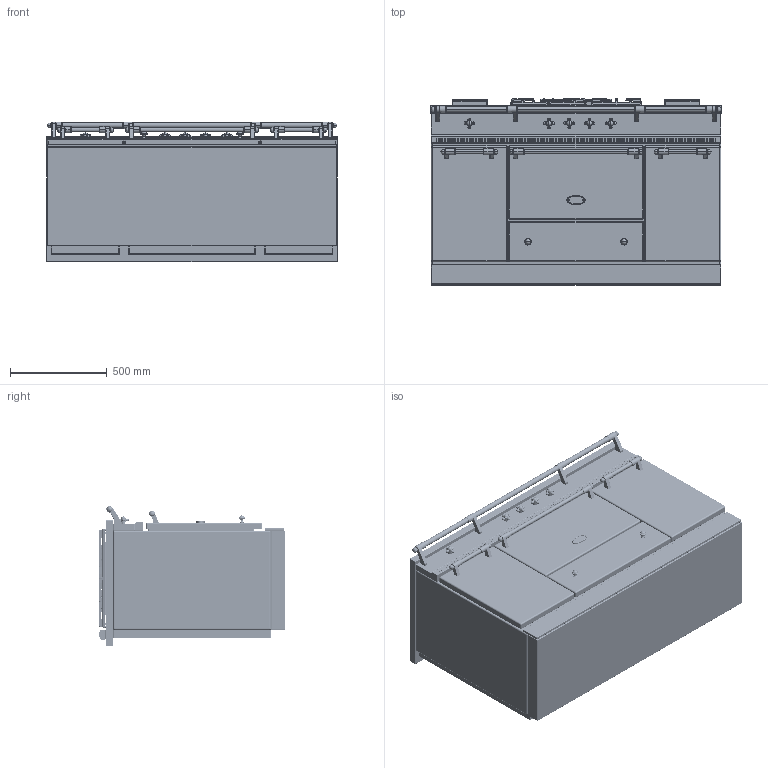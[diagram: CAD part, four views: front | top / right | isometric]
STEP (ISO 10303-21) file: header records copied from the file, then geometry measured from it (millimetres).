
FILE_DESCRIPTION((''),'2;1');
FILE_NAME('LG1532__ASM','2021-12-02T14:16:32',('r.avril'),(''),'CREO PARAMETRIC BY PTC INC, 2017260','CREO PARAMETRIC BY PTC INC, 2017260','');
FILE_SCHEMA(('AP203_CONFIGURATION_CONTROLLED_3D_DESIGN_OF_MECHANICAL_PARTS_AND_ASSEMBLIES_MIM_LF { 1 0 10303 403 2 1 2 }'));
Products named in the file (28): BASE_EXPORT_FONTENAY_LG1531; 65650003; 65650004; 65650006; 65650007; 6531940; 6531941; 6531943; 65049009; 65650001; 6538399; 1931942; 65080022_AF0; 6531942_ASM; BASE_EXPORT_CITEAUX_LG1532_ASM; TABLE_1505_CLASSIQUE_3_FEUX; 5KW; 1_5KW; 3KW; 6537025; 65149005; 90000488_ASM; 6537023; 90000565_ASM; CHEMINEE_2020_LG182_EXPORT_STEP; CHEMINEE_2020_LG371_EXPORT_STEP; TABLE_1505_CLASSIQUE_3_FEUX_ASM; LG1532__ASM
Assembly tree (45 placements, depth 4):
  LG1532__ASM
    BASE_EXPORT_CITEAUX_LG1532_ASM
      BASE_EXPORT_FONTENAY_LG1531
      65650003
      65650004
      65650006
      65650007
      6531940  x3
      6531941  x3
      6531943  x2
      65049009
      65650001
      6531942_ASM  x5
        6538399
        1931942
        65080022_AF0
    TABLE_1505_CLASSIQUE_3_FEUX_ASM
      TABLE_1505_CLASSIQUE_3_FEUX
      5KW
      1_5KW
      3KW
      90000488_ASM  x2
        6537025
        65149005
      90000565_ASM
        6537023
        65149005  x4
      CHEMINEE_2020_LG182_EXPORT_STEP  x2
      CHEMINEE_2020_LG371_EXPORT_STEP
Bounding box: 1505 x 965 x 724 mm (x, y, z)
Volume: 549388322 mm3; surface area: 13375206.6 mm2
Topology: 60 solids, 72 shells, 6512 faces, 16744 edges, 10359 vertices
Faces by surface type: plane 2607, cylinder 2121, bspline 834, torus 287, cone 271, sphere 214, extrusion 162, revolution 16
Entity records: 168181 total; most frequent: CARTESIAN_POINT 51392, ORIENTED_EDGE 20094, DIRECTION 18436, EDGE_CURVE 10061, AXIS2_PLACEMENT_3D 6388, VERTEX_POINT 6236, VECTOR 5573, LINE 5523
